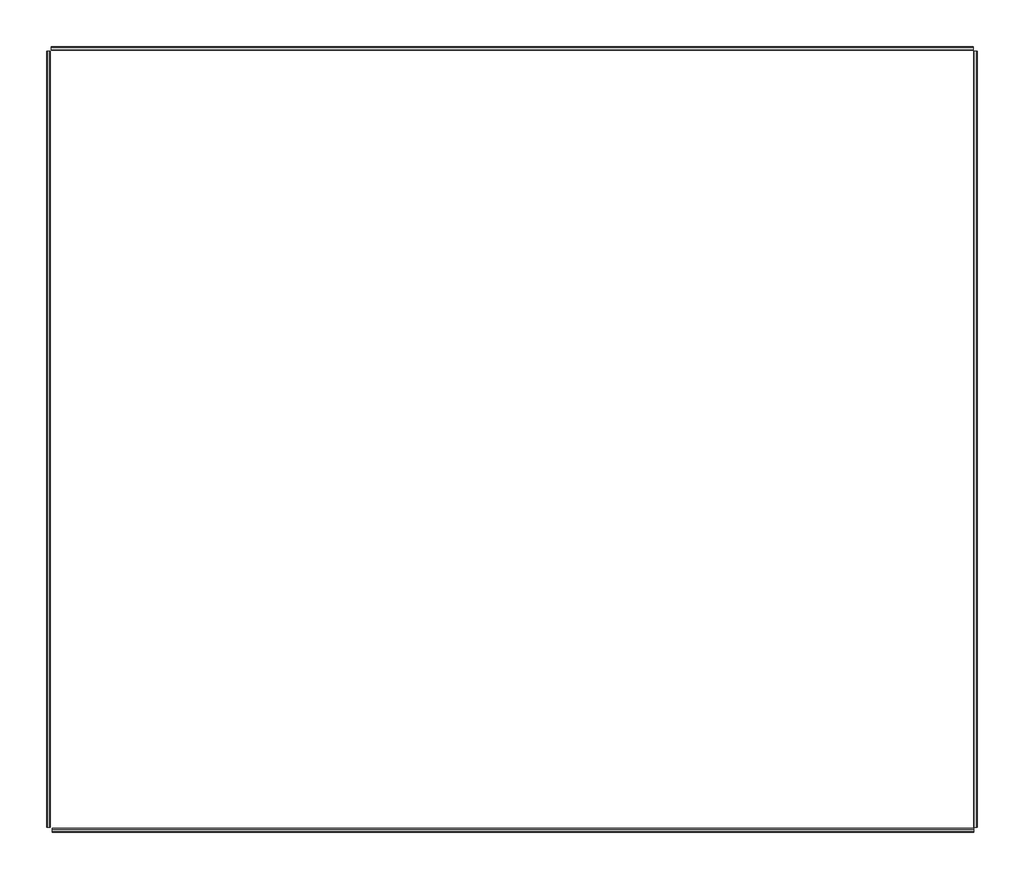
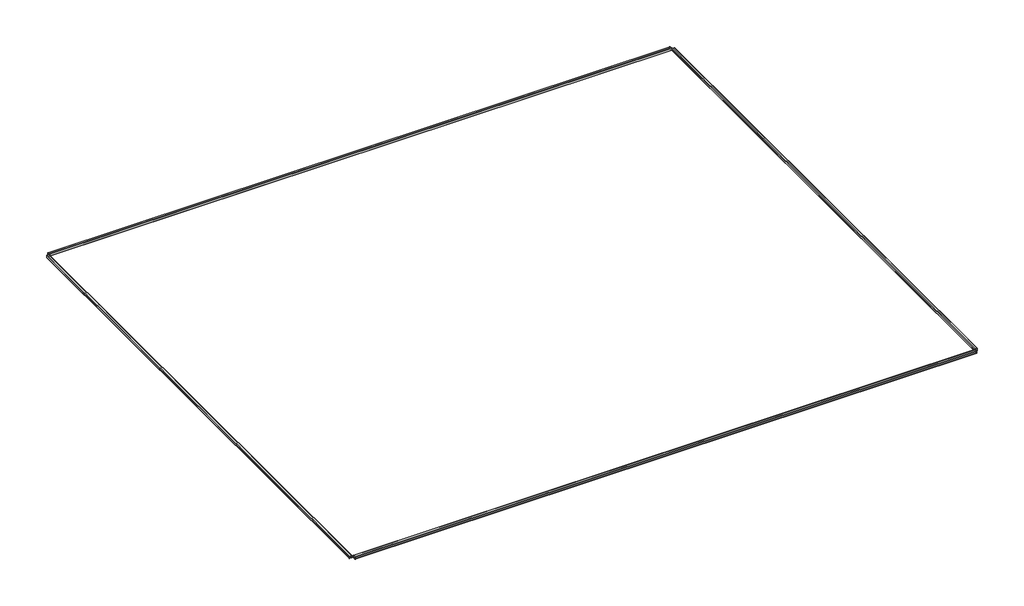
# One storey: 4 beams.
"""IFC4 building model written with IfcOpenShell, lengths in millimetres."""

from ifc_helpers import new_model, si_unit, origin, place, context, project, spatial, transform, mapped, element, save
from components import shs_en_10210_2_shs50x5_11b03e88, shs_en_10210_2_shs50x5_dd95755e, shs_en_10210_2_shs50x5_e16ab194, shs_en_10210_2_shs50x5_15f41986

model = new_model("IFC4")

# Units and contexts
model_context = context("Model", 3, world=origin())
ifc_project = project(units=[si_unit("LENGTHUNIT", "METRE", prefix="MILLI")], contexts=[model_context])

# Site, building, storey
site = spatial("IfcSite", under=ifc_project)
building = spatial("IfcBuilding", under=site)
storey = spatial("IfcBuildingStorey", under=building, Name="haut bardage", Elevation=4300.0)

# Beams
placement = place(None, origin())
shs_en_10210_2_shs50x5_shape = shs_en_10210_2_shs50x5_11b03e88(model_context)
element("IfcBeam", 1, ObjectType="SHS (EN 10210-2) : SHS50x5", at=placement, inside=storey, context=model_context, shape_type="MappedRepresentation", body=[
    mapped(shs_en_10210_2_shs50x5_shape, transform((-10211.3956945, 807.4635983, 4275.0), x_axis=(1.0, 0.0, 0.0), y_axis=(0.0, 1.0, 0.0), z_axis=(0.0, 0.0, 1.0))),
])
shs_en_10210_2_shs50x5_2_shape = shs_en_10210_2_shs50x5_dd95755e(model_context)
element("IfcBeam", 2, ObjectType="SHS (EN 10210-2) : SHS50x5", at=placement, inside=storey, context=model_context, shape_type="MappedRepresentation", body=[
    mapped(shs_en_10210_2_shs50x5_2_shape, transform((-10246.2184434, 11027.4635983, 4275.0), x_axis=(1.0, 0.0, 0.0), y_axis=(0.0, 1.0, 0.0), z_axis=(0.0, 0.0, 1.0))),
])
shs_en_10210_2_shs50x5_3_shape = shs_en_10210_2_shs50x5_e16ab194(model_context)
element("IfcBeam", 3, ObjectType="SHS (EN 10210-2) : SHS50x5", at=placement, inside=storey, context=model_context, shape_type="MappedRepresentation", body=[
    mapped(shs_en_10210_2_shs50x5_3_shape, transform((-4191.3956945, 5922.4635983, 4275.0), x_axis=(0.0, -1.0, 0.0), y_axis=(1.0, 0.0, 0.0), z_axis=(0.0, 0.0, 1.0))),
])
shs_en_10210_2_shs50x5_4_shape = shs_en_10210_2_shs50x5_15f41986(model_context)
element("IfcBeam", 4, ObjectType="SHS (EN 10210-2) : SHS50x5", at=placement, inside=storey, context=model_context, shape_type="MappedRepresentation", body=[
    mapped(shs_en_10210_2_shs50x5_4_shape, transform((-16301.3291149, 5917.4635983, 4275.0), x_axis=(0.0, -1.0, 0.0), y_axis=(1.0, 0.0, 0.0), z_axis=(0.0, 0.0, 1.0))),
])

save(model, "model.ifc")
